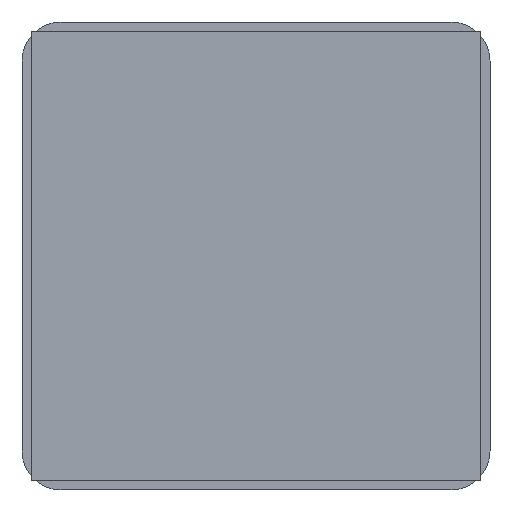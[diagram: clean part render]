
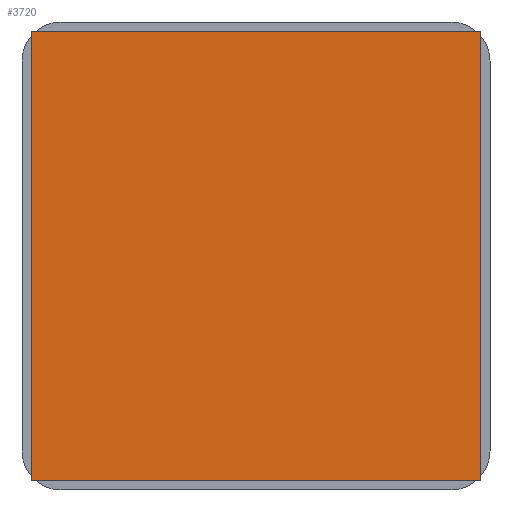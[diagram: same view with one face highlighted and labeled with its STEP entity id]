
A CAD part, front view. The second image highlights one B-rep face of the part: STEP entity #3720.
In plain terms, the highlighted planar face has unit normal (0, -1, 0).
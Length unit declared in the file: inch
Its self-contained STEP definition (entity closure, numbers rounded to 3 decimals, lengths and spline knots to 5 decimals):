
#69 = VECTOR ( 'NONE', #2900, 39.37008 ) ;
#816 = CARTESIAN_POINT ( 'NONE',  ( -0.74803, -0.005, -0.74803 ) ) ;
#1146 = EDGE_CURVE ( 'NONE', #8037, #8328, #5059, .T. ) ;
#1963 = EDGE_CURVE ( 'NONE', #8328, #9054, #3661, .T. ) ;
#2159 = CARTESIAN_POINT ( 'NONE',  ( -0.74803, -0.005, 0.74803 ) ) ;
#2645 = DIRECTION ( 'NONE',  ( 0., 1., 0. ) ) ;
#2900 = DIRECTION ( 'NONE',  ( 0., 0., -1. ) ) ;
#2989 = VECTOR ( 'NONE', #7142, 39.37008 ) ;
#3172 = FACE_OUTER_BOUND ( 'NONE', #6618, .T. ) ;
#3390 = AXIS2_PLACEMENT_3D ( 'NONE', #5393, #2645, #3804 ) ;
#3661 = LINE ( 'NONE', #6465, #5760 ) ;
#3720 = ADVANCED_FACE ( 'NONE', ( #3172 ), #5348, .F. ) ;
#3804 = DIRECTION ( 'NONE',  ( 0., 0., 1. ) ) ;
#4007 = CARTESIAN_POINT ( 'NONE',  ( 0.74803, -0.005, 0.74803 ) ) ;
#4209 = VERTEX_POINT ( 'NONE', #2159 ) ;
#4982 = EDGE_CURVE ( 'NONE', #4209, #8037, #8999, .T. ) ;
#5059 = LINE ( 'NONE', #5807, #69 ) ;
#5150 = CARTESIAN_POINT ( 'NONE',  ( 0.74803, -0.005, -0.74803 ) ) ;
#5245 = VECTOR ( 'NONE', #7700, 39.37008 ) ;
#5348 = PLANE ( 'NONE',  #3390 ) ;
#5393 = CARTESIAN_POINT ( 'NONE',  ( -0.74803, -0.005, 0.74803 ) ) ;
#5760 = VECTOR ( 'NONE', #7895, 39.37008 ) ;
#5807 = CARTESIAN_POINT ( 'NONE',  ( 0.74803, -0.005, -0.74803 ) ) ;
#6465 = CARTESIAN_POINT ( 'NONE',  ( -0.74803, -0.005, -0.74803 ) ) ;
#6582 = ORIENTED_EDGE ( 'NONE', *, *, #1146, .F. ) ;
#6618 = EDGE_LOOP ( 'NONE', ( #8015, #7335, #6582, #6891 ) ) ;
#6688 = CARTESIAN_POINT ( 'NONE',  ( -0.74803, -0.005, -0.74803 ) ) ;
#6891 = ORIENTED_EDGE ( 'NONE', *, *, #4982, .F. ) ;
#7054 = LINE ( 'NONE', #816, #2989 ) ;
#7142 = DIRECTION ( 'NONE',  ( 0., 0., 1. ) ) ;
#7335 = ORIENTED_EDGE ( 'NONE', *, *, #1963, .F. ) ;
#7700 = DIRECTION ( 'NONE',  ( 1., 0., 0. ) ) ;
#7895 = DIRECTION ( 'NONE',  ( -1., 0., 0. ) ) ;
#8015 = ORIENTED_EDGE ( 'NONE', *, *, #8020, .F. ) ;
#8020 = EDGE_CURVE ( 'NONE', #9054, #4209, #7054, .T. ) ;
#8037 = VERTEX_POINT ( 'NONE', #4007 ) ;
#8328 = VERTEX_POINT ( 'NONE', #5150 ) ;
#8955 = CARTESIAN_POINT ( 'NONE',  ( -0.74803, -0.005, 0.74803 ) ) ;
#8999 = LINE ( 'NONE', #8955, #5245 ) ;
#9054 = VERTEX_POINT ( 'NONE', #6688 ) ;
